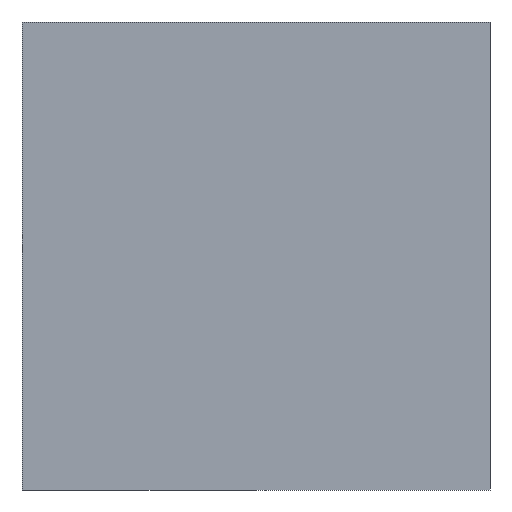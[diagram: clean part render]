
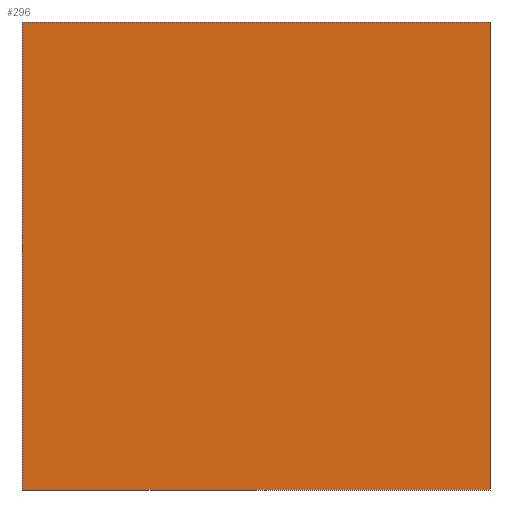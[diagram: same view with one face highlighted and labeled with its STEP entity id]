
A CAD part, left-side view. The second image highlights one B-rep face of the part: STEP entity #296.
In plain terms, the highlighted planar face has unit normal (-1, 0, 0).
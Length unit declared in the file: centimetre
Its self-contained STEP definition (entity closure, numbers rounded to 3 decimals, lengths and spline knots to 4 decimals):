
#2 = CARTESIAN_POINT ( 'NONE',  ( 0., 0., 0. ) ) ;
#13 = VECTOR ( 'NONE', #160, 100. ) ;
#19 = VECTOR ( 'NONE', #282, 100. ) ;
#29 = DIRECTION ( 'NONE',  ( 0., 0., -1. ) ) ;
#35 = ORIENTED_EDGE ( 'NONE', *, *, #181, .T. ) ;
#36 = EDGE_CURVE ( 'NONE', #204, #297, #159, .T. ) ;
#39 = VERTEX_POINT ( 'NONE', #243 ) ;
#44 = AXIS2_PLACEMENT_3D ( 'NONE', #333, #368, #315 ) ;
#55 = CARTESIAN_POINT ( 'NONE',  ( 0., 1000., 1000. ) ) ;
#58 = CARTESIAN_POINT ( 'NONE',  ( 0., 1000., 1000. ) ) ;
#97 = ORIENTED_EDGE ( 'NONE', *, *, #36, .T. ) ;
#102 = DIRECTION ( 'NONE',  ( 0., -1., 0. ) ) ;
#118 = VERTEX_POINT ( 'NONE', #135 ) ;
#135 = CARTESIAN_POINT ( 'NONE',  ( 0., 0., 1000. ) ) ;
#154 = ORIENTED_EDGE ( 'NONE', *, *, #238, .F. ) ;
#159 = LINE ( 'NONE', #273, #236 ) ;
#160 = DIRECTION ( 'NONE',  ( 0., 0., -1. ) ) ;
#162 = EDGE_CURVE ( 'NONE', #118, #297, #283, .T. ) ;
#166 = CARTESIAN_POINT ( 'NONE',  ( 0., 0., 1000. ) ) ;
#169 = FACE_OUTER_BOUND ( 'NONE', #330, .T. ) ;
#181 = EDGE_CURVE ( 'NONE', #39, #204, #223, .T. ) ;
#194 = CARTESIAN_POINT ( 'NONE',  ( 0., 1000., 0. ) ) ;
#204 = VERTEX_POINT ( 'NONE', #194 ) ;
#223 = LINE ( 'NONE', #58, #13 ) ;
#236 = VECTOR ( 'NONE', #102, 100. ) ;
#238 = EDGE_CURVE ( 'NONE', #39, #118, #313, .T. ) ;
#243 = CARTESIAN_POINT ( 'NONE',  ( 0., 1000., 1000. ) ) ;
#251 = PLANE ( 'NONE',  #44 ) ;
#261 = ORIENTED_EDGE ( 'NONE', *, *, #162, .F. ) ;
#273 = CARTESIAN_POINT ( 'NONE',  ( 0., 1000., 0. ) ) ;
#282 = DIRECTION ( 'NONE',  ( 0., -1., 0. ) ) ;
#283 = LINE ( 'NONE', #166, #346 ) ;
#296 = ADVANCED_FACE ( 'NONE', ( #169 ), #251, .F. ) ;
#297 = VERTEX_POINT ( 'NONE', #2 ) ;
#313 = LINE ( 'NONE', #55, #19 ) ;
#315 = DIRECTION ( 'NONE',  ( 0., 0., -1. ) ) ;
#330 = EDGE_LOOP ( 'NONE', ( #97, #261, #154, #35 ) ) ;
#333 = CARTESIAN_POINT ( 'NONE',  ( 0., 1000., 1000. ) ) ;
#346 = VECTOR ( 'NONE', #29, 100. ) ;
#368 = DIRECTION ( 'NONE',  ( 1., 0., 0. ) ) ;
